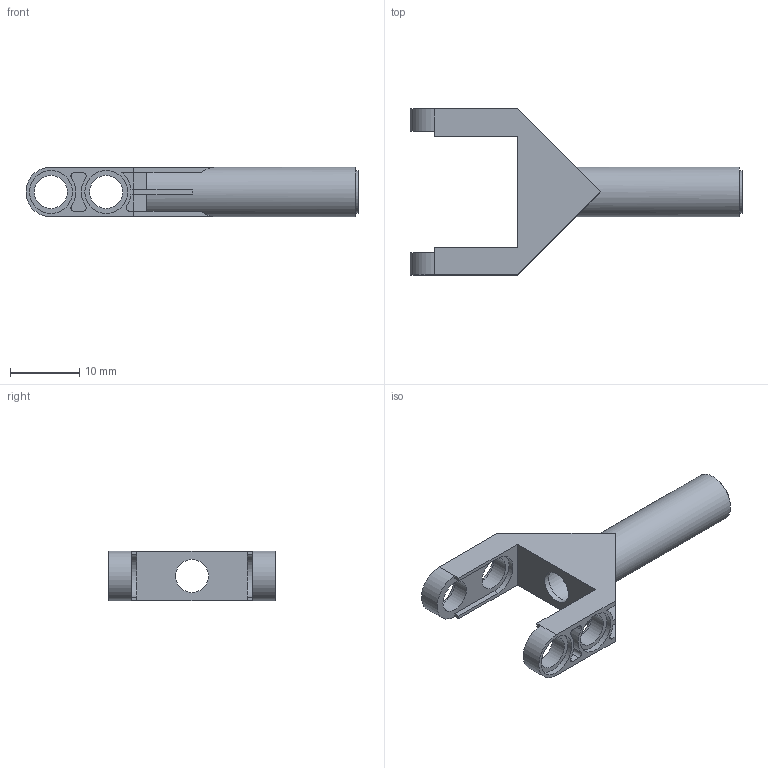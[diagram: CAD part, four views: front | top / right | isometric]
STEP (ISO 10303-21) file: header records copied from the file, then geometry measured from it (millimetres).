
FILE_DESCRIPTION(/* description */ ('Unknown'),/* implementation_level */ '2;1');
FILE_NAME(/* name */ 'ClGray_4612100_b)_AVV',/* time_stamp */ '2025-07-21T23:57:27+02:00',/* author */ ('Unknown'),/* organization */ ('Unknown'),/* preprocessor_version */ 'ST-DEVELOPER v19.4',/* originating_system */ 'Solid Edge',/* authorisation */ 'Unknown');
FILE_SCHEMA (('AUTOMOTIVE_DESIGN {1 0 10303 214 3 1 1}'));
Length unit declared in the file: millimetre
Products named in the file (1): ClGray_4612100_b)_AVV
Bounding box: 48 x 24 x 7.2 mm (x, y, z)
Volume: 1076 mm3; surface area: 2919.6 mm2
Topology: 1 solids, 1 shells, 92 faces, 240 edges, 159 vertices
Faces by surface type: plane 57, cylinder 35
Full cylindrical faces by diameter (mm): 4.8 x5, 5.8 x1, 6.2 x6, 7.2 x1
Entity records: 2788 total; most frequent: DIRECTION 488, CARTESIAN_POINT 471, ORIENTED_EDGE 446, EDGE_CURVE 223, AXIS2_PLACEMENT_3D 172, VERTEX_POINT 155, LINE 144, VECTOR 144
